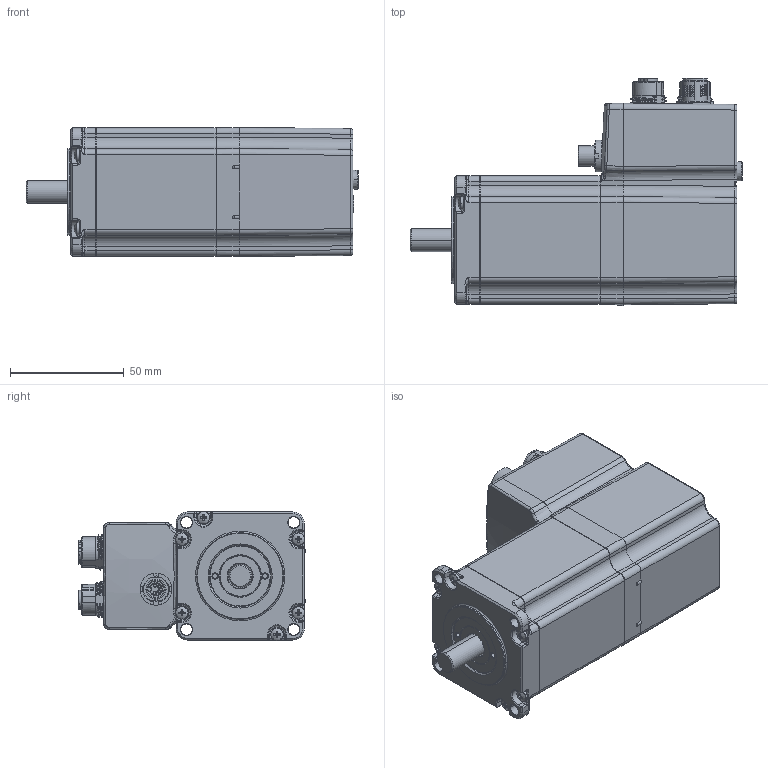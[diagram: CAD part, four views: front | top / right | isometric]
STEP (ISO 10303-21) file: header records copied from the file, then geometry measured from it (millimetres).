
FILE_DESCRIPTION((''),'2;1');
FILE_NAME('STEPPERASSY_ASM','2023-07-14T16:22:45',('VA'),(''),'CREO PARAMETRIC BY PTC INC, 2021063','CREO PARAMETRIC BY PTC INC, 2021063','');
FILE_SCHEMA(('AUTOMOTIVE_DESIGN { 1 0 10303 214 1 1 1 1 }'));
Products named in the file (9): FRONT_CAP_1; STATOR; RADIAL_CON; SHAFT_1; LOCK_NUT_1; SEALING_1; STO; FAST_L; STEPPERASSY_ASM
Assembly tree (13 placements, depth 2):
  STEPPERASSY_ASM
    FRONT_CAP_1
    STATOR
    RADIAL_CON
    SHAFT_1
    LOCK_NUT_1
    SEALING_1
    STO
    FAST_L  x6
Bounding box: 145.9 x 99.82 x 56.8 mm (x, y, z)
Volume: 444671 mm3; surface area: 64590.8 mm2
Topology: 13 solids, 19 shells, 2403 faces, 6163 edges, 3845 vertices
Faces by surface type: plane 910, cylinder 656, bspline 374, cone 242, torus 183, sphere 36, extrusion 2
Entity records: 129796 total; most frequent: CARTESIAN_POINT 47578, ORIENTED_EDGE 11394, DIRECTION 10315, PRESENTATION_STYLE_ASSIGNMENT 6317, EDGE_CURVE 5699, STYLED_ITEM 5425, CURVE_STYLE 5197, AXIS2_PLACEMENT_3D 3852
